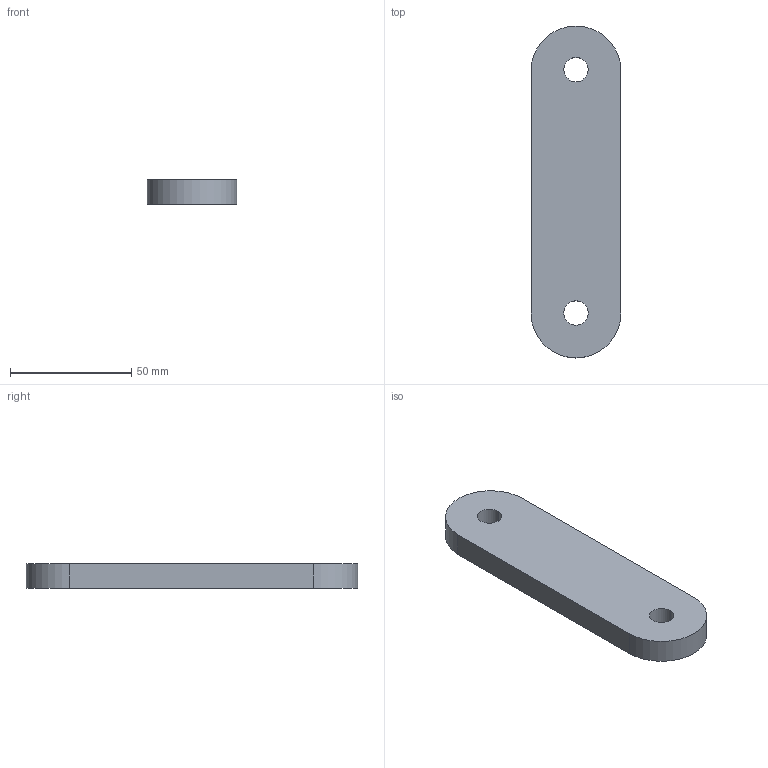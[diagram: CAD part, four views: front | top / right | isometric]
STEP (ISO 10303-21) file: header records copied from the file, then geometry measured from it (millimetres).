
FILE_DESCRIPTION (( 'STEP AP214' ), '1' );
FILE_NAME ('Spacer.step', '2019-12-18T03:08:39', ( '' ), ( '' ), 'SwSTEP 2.0', 'SolidWorks 2019', '' );
FILE_SCHEMA (( 'AUTOMOTIVE_DESIGN' ));
Length unit declared in the file: millimetre
Products named in the file (1): Spacer
Bounding box: 37.13 x 137.04 x 10 mm (x, y, z)
Volume: 46358.7 mm3; surface area: 13064.8 mm2
Topology: 1 solids, 1 shells, 10 faces, 24 edges, 16 vertices
Faces by surface type: cylinder 6, plane 4
Entity records: 342 total; most frequent: DIRECTION 58, CARTESIAN_POINT 51, ORIENTED_EDGE 48, EDGE_CURVE 24, AXIS2_PLACEMENT_3D 23, VERTEX_POINT 16, EDGE_LOOP 14, LINE 12
